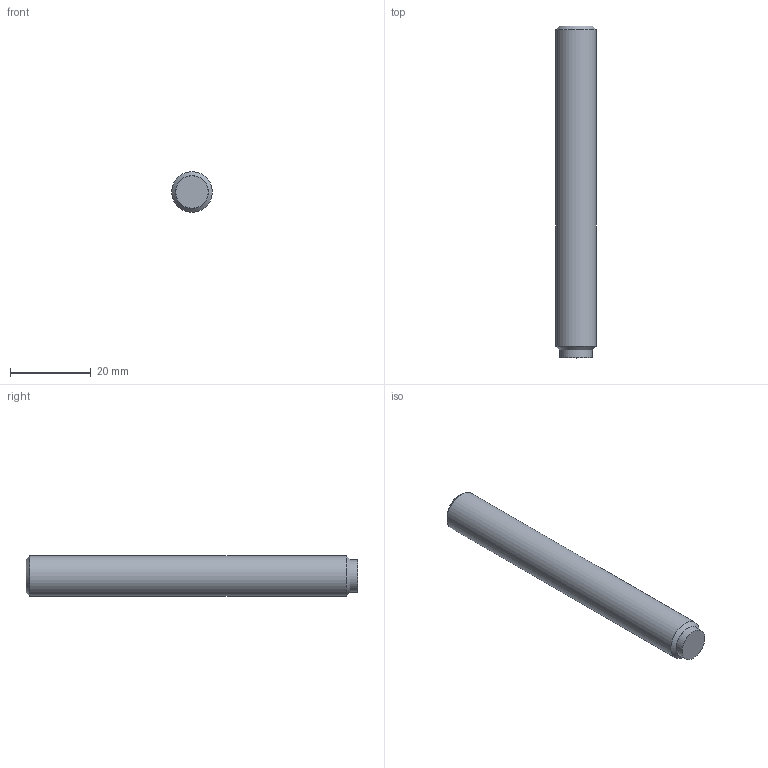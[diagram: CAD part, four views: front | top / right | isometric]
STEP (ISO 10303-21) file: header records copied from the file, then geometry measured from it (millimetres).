
FILE_DESCRIPTION( ( 'STEP AP203' ), '1' );
FILE_NAME( 'C:/Temp/Ganter_Step_05_03_2020/data/3_2/gn913_3/Grub screw GN 913.3-M10-80-MS.stp', '2020-03-13T05:35:53', ( 'License CC BY-ND 4.0' ), ( 'CADENAS' ), ' ', 'PARTsolutions', ' ' );
FILE_SCHEMA( ( 'CONFIG_CONTROL_DESIGN' ) );
Length unit declared in the file: millimetre
Products named in the file (1): _Grub screw GN 913.3-M10-80-MS
Bounding box: 10 x 82 x 10 mm (x, y, z)
Volume: 6228.9 mm3; surface area: 2788.5 mm2
Topology: 1 solids, 1 shells, 14 faces, 28 edges, 18 vertices
Faces by surface type: plane 10, cylinder 2, cone 2
Full cylindrical faces by diameter (mm): 8 x1, 10 x1
Entity records: 386 total; most frequent: DIRECTION 60, CARTESIAN_POINT 57, ORIENTED_EDGE 48, EDGE_CURVE 24, AXIS2_PLACEMENT_3D 21, EDGE_LOOP 20, VERTEX_POINT 18, LINE 18
